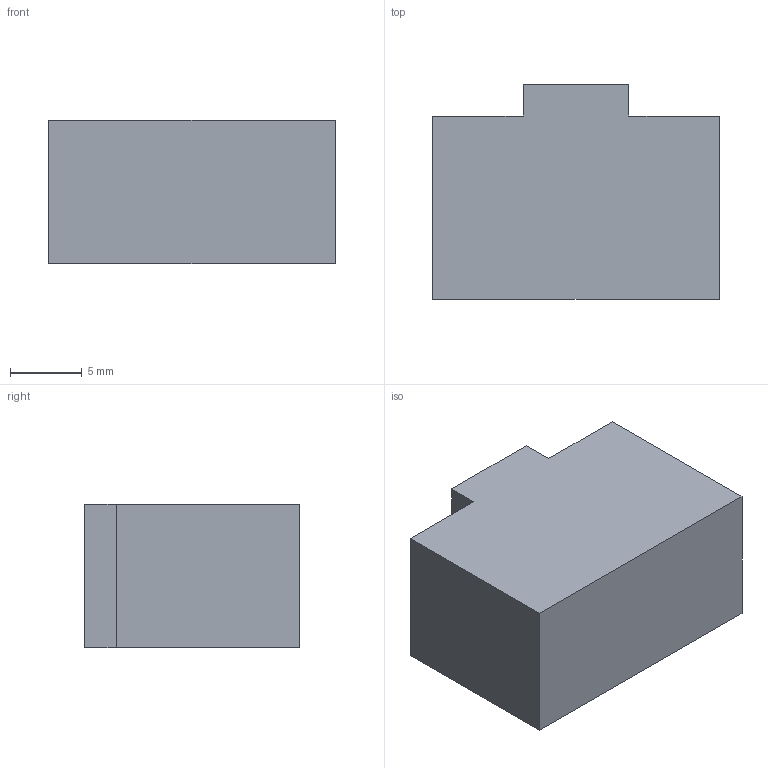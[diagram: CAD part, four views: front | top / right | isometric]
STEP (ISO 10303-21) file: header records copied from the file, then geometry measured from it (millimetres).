
FILE_DESCRIPTION (( 'STEP AP214' ), '1' );
FILE_NAME ('207 OTO 112.STEP', '2024-12-09T08:16:25', ( '' ), ( '' ), 'SwSTEP 2.0', 'SolidWorks 2021', '' );
FILE_SCHEMA (( 'AUTOMOTIVE_DESIGN' ));
Length unit declared in the file: millimetre
Products named in the file (1): 207 OTO 112
Bounding box: 20 x 15 x 10 mm (x, y, z)
Volume: 2722.8 mm3; surface area: 1244.6 mm2
Topology: 1 solids, 1 shells, 10 faces, 24 edges, 16 vertices
Faces by surface type: plane 10
Entity records: 322 total; most frequent: CARTESIAN_POINT 51, ORIENTED_EDGE 48, DIRECTION 46, VECTOR 24, EDGE_CURVE 24, LINE 24, VERTEX_POINT 16, AXIS2_PLACEMENT_3D 11
